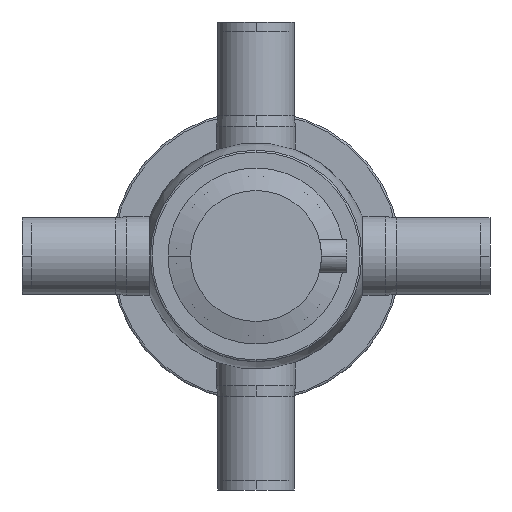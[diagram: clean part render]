
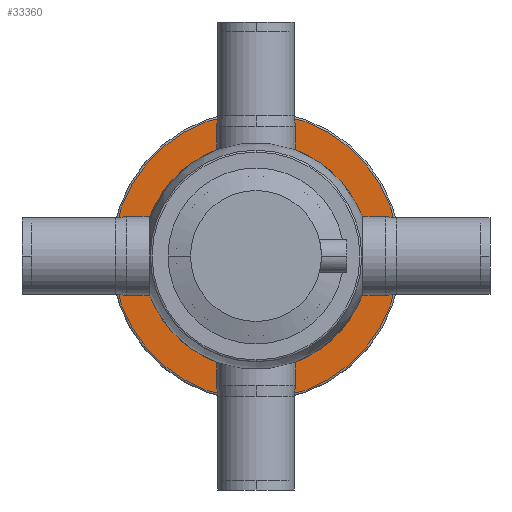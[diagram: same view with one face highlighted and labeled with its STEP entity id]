
A CAD part, front view. The second image highlights one B-rep face of the part: STEP entity #33360.
In plain terms, the highlighted planar face has unit normal (0, -1, 0).
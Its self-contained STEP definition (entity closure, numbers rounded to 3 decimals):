
#31470=CARTESIAN_POINT('',(59.,-17.,0.))
;
#31480=VERTEX_POINT('',#31470);
#31510=CARTESIAN_POINT('',(0.,-17.,0.));
#31520=DIRECTION('',(0.,1.,0.));
#31530=DIRECTION('',(1.,0.,0.));
#31540=AXIS2_PLACEMENT_3D('',#31510,#31520,#31530);
#31550=CIRCLE('',#31540,59.);
#31560=CARTESIAN_POINT('',(-59.,-17.,0.)
);
#31570=VERTEX_POINT('',#31560);
#31580=EDGE_CURVE('',#31480,#31570,#31550,.T.);
#33110=CARTESIAN_POINT('',(66.7,-17.,0.)
);
#33120=DIRECTION('',(-0.,1.,0.));
#33130=DIRECTION('',(1.,0.,0.));
#33140=AXIS2_PLACEMENT_3D('',#33110,#33120,#33130);
#33150=PLANE('',#33140);
#33160=EDGE_CURVE('',#31570,#31480,#31550,.T.);
#33170=ORIENTED_EDGE('',*,*,#33160,.T.);
#33180=ORIENTED_EDGE('',*,*,#31580,.T.);
#33190=EDGE_LOOP('',(#33180,#33170));
#33200=FACE_BOUND('',#33190,.T.);
#33210=CARTESIAN_POINT('',(0.,-17.,0.));
#33220=DIRECTION('',(0.,1.,0.));
#33230=DIRECTION('',(1.,0.,0.));
#33240=AXIS2_PLACEMENT_3D('',#33210,#33220,#33230);
#33250=CIRCLE('',#33240,76.5);
#33260=CARTESIAN_POINT('',(-76.5,-17.,0.
));
#33270=VERTEX_POINT('',#33260);
#33280=CARTESIAN_POINT('',(76.5,-17.,0.)
);
#33290=VERTEX_POINT('',#33280);
#33300=EDGE_CURVE('',#33270,#33290,#33250,.T.);
#33310=ORIENTED_EDGE('',*,*,#33300,.F.);
#33320=EDGE_CURVE('',#33290,#33270,#33250,.T.);
#33330=ORIENTED_EDGE('',*,*,#33320,.F.);
#33340=EDGE_LOOP('',(#33330,#33310));
#33350=FACE_OUTER_BOUND('',#33340,.T.);
#33360=ADVANCED_FACE('',(#33200,#33350),#33150,.F.);
